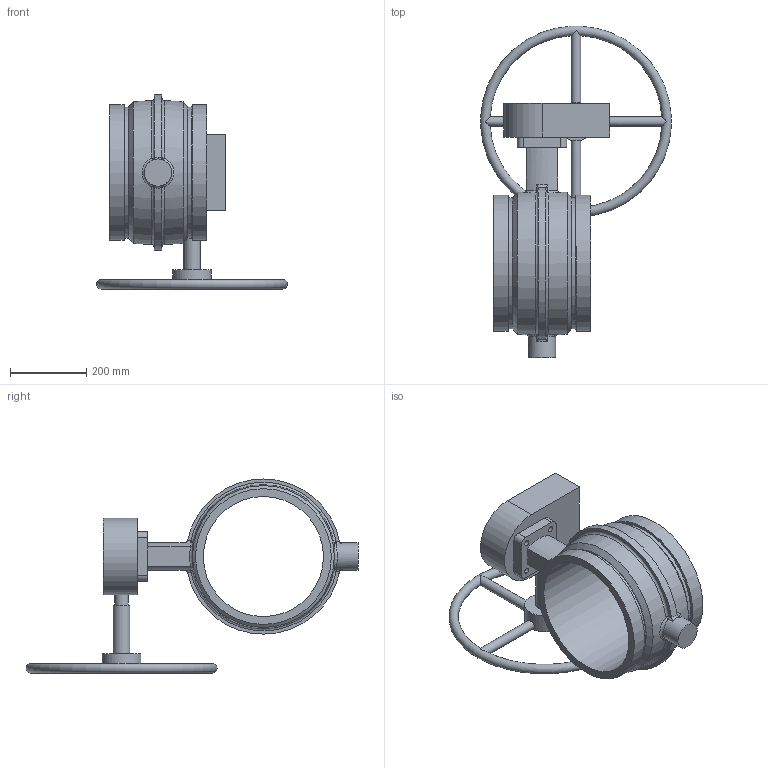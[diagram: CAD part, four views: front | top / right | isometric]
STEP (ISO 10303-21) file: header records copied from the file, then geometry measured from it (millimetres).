
FILE_DESCRIPTION(/* description */ ('VIC AGS VALVE BUTTERFLY VIC-300 MS GO SERIES W761 (AGS)'),/* implementation_level */ '2;1');
FILE_NAME(/* name */ 'C:\Files for Export\W761\STEP\Victaulic_IPS-AGS_Vlv Btfl Vic-300 MS GO_Series W761 (AGS)\Victaulic_IPS-AGS_Vlv Btfl Vic-300 MS GO_Series W761 (AGS)_14 (350).stp',/* time_stamp */ '2024-08-27T14:19:25+02:00',/* author */ ('jheald'),/* organization */ ('Victaulic'),/* preprocessor_version */ 'ST-DEVELOPER v18.1',/* originating_system */ 'Autodesk Inventor 2020',/* authorisation */ '');
FILE_SCHEMA (('AUTOMOTIVE_DESIGN { 1 0 10303 214 3 1 1 }'));
Length unit declared in the file: inch
Products named in the file (1): W761-14.0
Bounding box: 500.13 x 869.32 x 508.25 mm (x, y, z)
Volume: 14708967.7 mm3; surface area: 1092727.8 mm2
Topology: 1 solids, 1 shells, 95 faces, 268 edges, 178 vertices
Faces by surface type: cylinder 34, plane 28, torus 11, bspline 10, sphere 8, cone 4
Full cylindrical faces by diameter (mm): 14.681 x4, 24.994 x4, 35.56 x1, 44.45 x1, 71.12 x1, 101.6 x1, 314.579 x1, 342.9 x2, 355.6 x2
Entity records: 4106 total; most frequent: CARTESIAN_POINT 1548, ORIENTED_EDGE 536, DIRECTION 479, EDGE_CURVE 268, AXIS2_PLACEMENT_3D 205, VERTEX_POINT 178, CIRCLE 119, EDGE_LOOP 108
